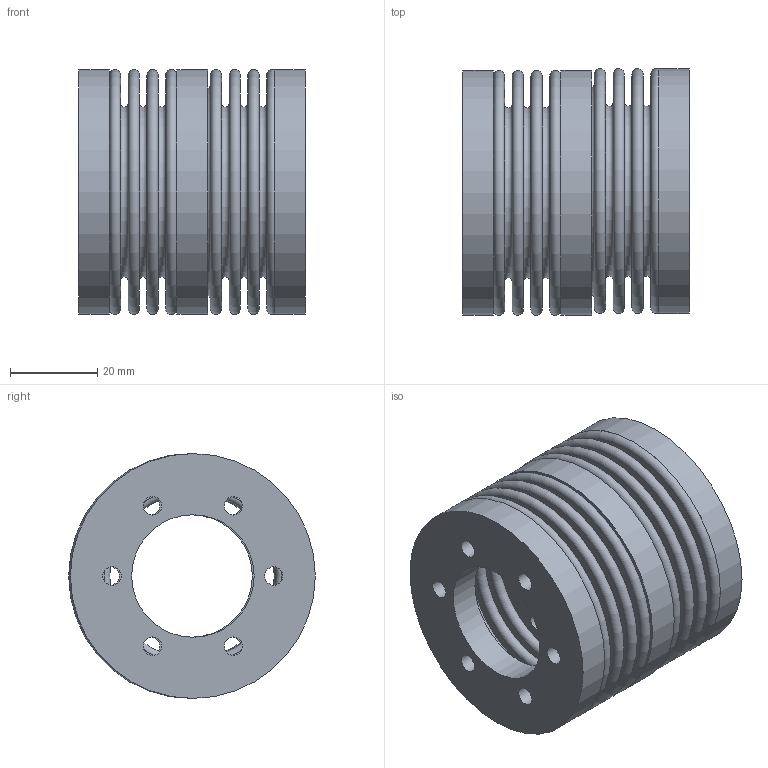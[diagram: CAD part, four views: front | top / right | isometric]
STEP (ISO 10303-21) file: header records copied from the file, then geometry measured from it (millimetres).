
FILE_DESCRIPTION( ( 'Unknown' ), '1' );
FILE_NAME( 'C:/Dokumente und Einstellungen/Sven/Desktop/homepage/cad - homepage/KB7/KB7-30-30.stp', 'Unknown', ( 'Unknown' ), ( 'Unknown' ), 'XStep 1.0', 'Unknown', ' ' );
FILE_SCHEMA( ( 'automotive_design' ) );
Length unit declared in the file: millimetre
Products named in the file (3): Assem1; FN30_Standard; BK30_Standard
Bounding box: 51.79 x 56.41 x 56 mm (x, y, z)
Volume: 46838.3 mm3; surface area: 66367.6 mm2
Topology: 5 solids, 5 shells, 106 faces, 190 edges, 126 vertices
Faces by surface type: plane 42, cylinder 32, torus 32
Full cylindrical faces by diameter (mm): 4.2 x18, 28 x3, 46.5 x4, 47.3 x4, 56 x3
Entity records: 1418 total; most frequent: DIRECTION 212, CARTESIAN_POINT 160, EDGE_LOOP 108, ORIENTED_EDGE 108, AXIS2_PLACEMENT_3D 106, FACE_OUTER_BOUND 76, EDGE_CURVE 54, VERTEX_POINT 54
